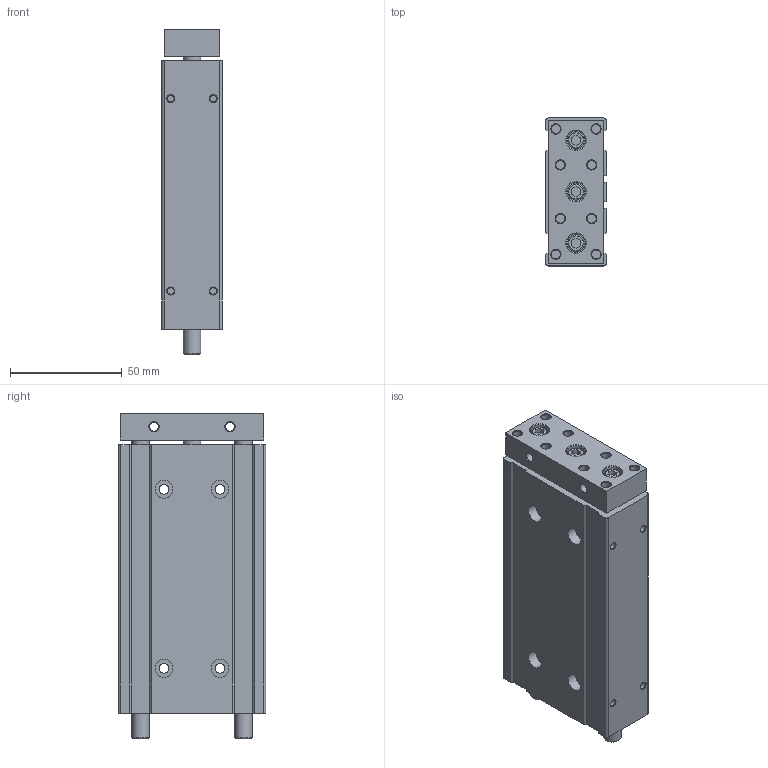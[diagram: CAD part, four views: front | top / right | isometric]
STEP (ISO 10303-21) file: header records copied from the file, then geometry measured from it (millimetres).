
FILE_DESCRIPTION((''),'2;1');
FILE_NAME('I:\3D電子目錄\氣缸\TB(U)\TB(U)16\TB(U)16\TB(U)16x75.stp','2007-08-06T08:10:04',('Administrator'),(''),'Autodesk Inventor 2008','Autodesk Inventor 2008','');
FILE_SCHEMA(('AUTOMOTIVE_DESIGN { 1 0 10303 214 1 1 1 1 }'));
Length unit declared in the file: millimetre
Products named in the file (1): TB(U)16X75
Bounding box: 27 x 66 x 145.5 mm (x, y, z)
Volume: 217584.3 mm3; surface area: 40112.9 mm2
Topology: 1 solids, 1 shells, 184 faces, 396 edges, 252 vertices
Faces by surface type: plane 84, cylinder 52, cone 37, bspline 8, torus 3
Full cylindrical faces by diameter (mm): 3 x4, 4 x10, 4.4 x4, 5 x6, 7.5 x3, 8 x13, 8.5 x3, 15 x2, 18 x1
Entity records: 4640 total; most frequent: CARTESIAN_POINT 815, DIRECTION 808, ORIENTED_EDGE 604, EDGE_LOOP 344, AXIS2_PLACEMENT_3D 329, EDGE_CURVE 302, VERTEX_POINT 248, FACE_OUTER_BOUND 184
